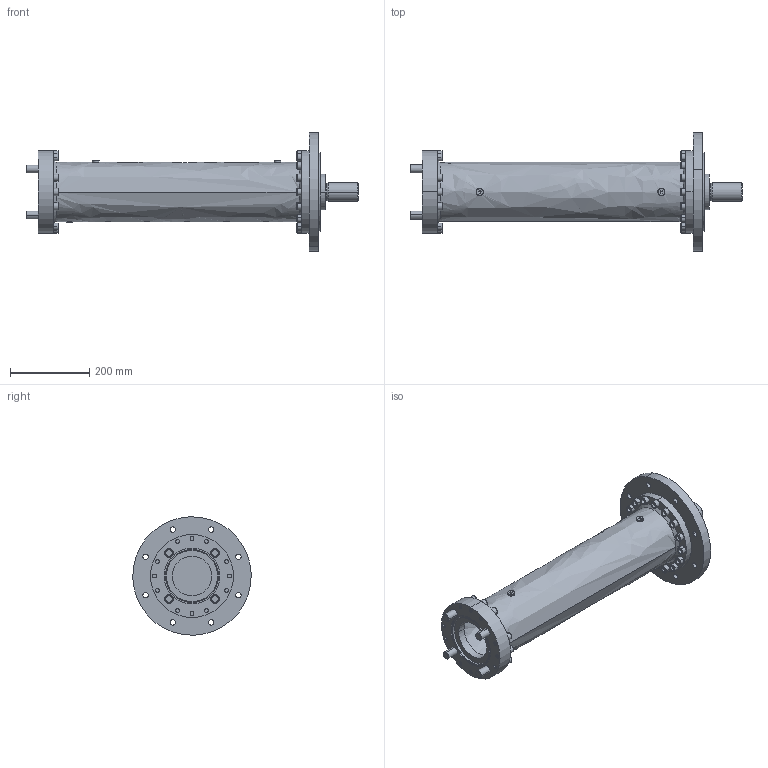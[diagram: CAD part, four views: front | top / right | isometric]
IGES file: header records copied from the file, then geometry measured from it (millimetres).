
Start section: Elysium IGES Interface
Global section: file name: C:\Users\DemirB\Desktop\LD.3...45.igs; native system: Creo Elements/Direct Modeling 20.0C  26-Jan-2018; preprocessor: Creo Element/Direct IGES_3D V2.2; author: Unknown; organization: Unknown; date: 20200514.075241; units: millimetre
Bounding box: 840.5 x 299.71 x 299.71 mm (x, y, z)
Volume: 7323908 mm3; surface area: 898948.3 mm2
Topology: 1 solids, 1 shells, 816 faces, 2004 edges, 1214 vertices
Faces by surface type: bspline 816
